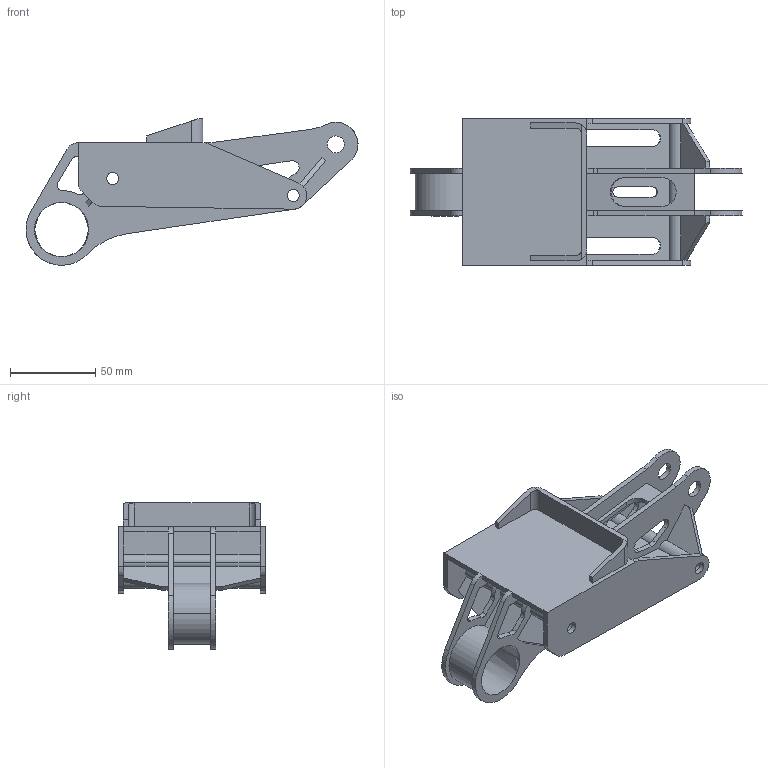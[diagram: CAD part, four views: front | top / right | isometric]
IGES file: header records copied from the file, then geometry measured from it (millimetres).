
Start section: START RECORD GO HERE.
Global section: file name: FR_04001 (Frame Brake).igs; native system: DASSAULT SYSTEMES CATIA Version 5-6 Release 2023 - www.3ds.com; preprocessor: V5-6R2023_5.33.5.0.08-23-2024.22.00; author: basti; organization: BASTIEN; date: 20250131.155031; units: millimetre
Bounding box: 194.89 x 86 x 85.87 mm (x, y, z)
Surface area: 96127.3 mm2 (no closed solid volume)
Topology: 0 solids, 0 shells, 220 faces, 1298 edges, 1298 vertices
Faces by surface type: revolution 115, plane 105
